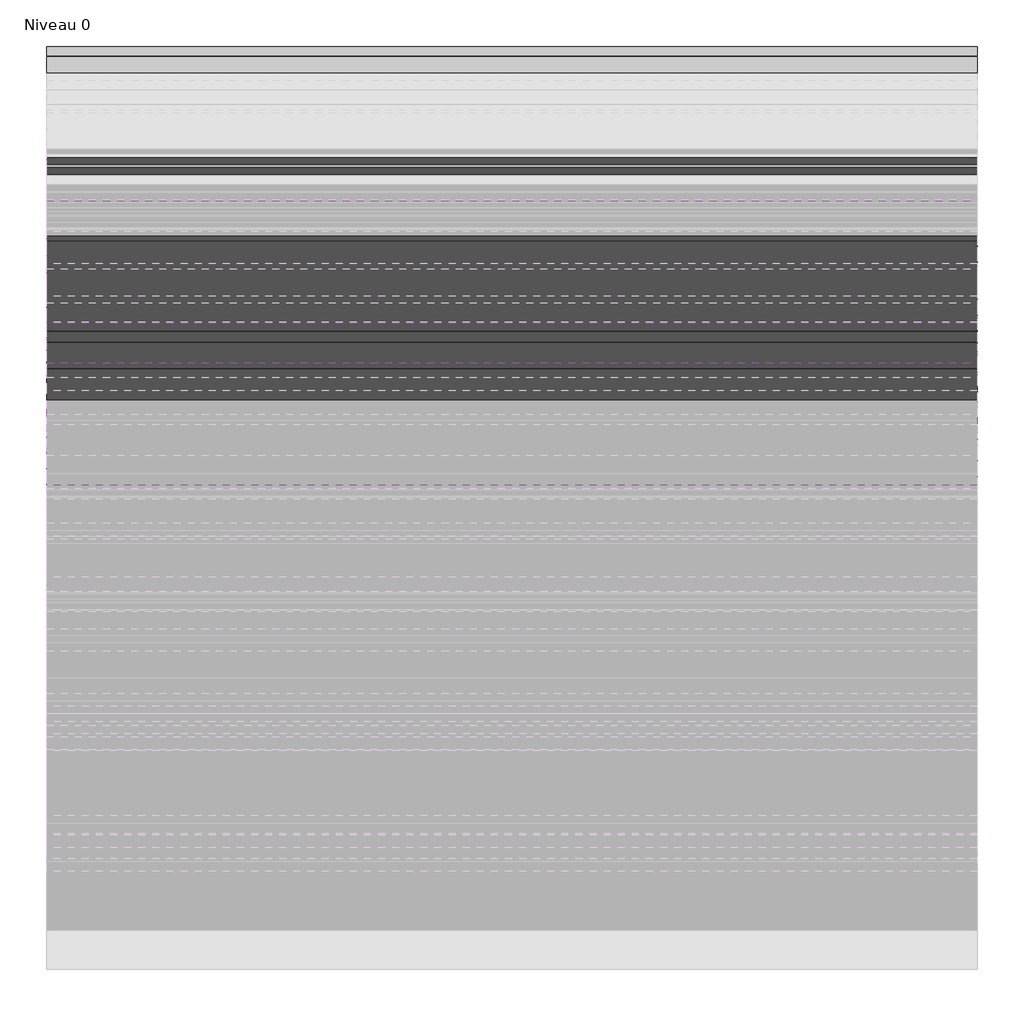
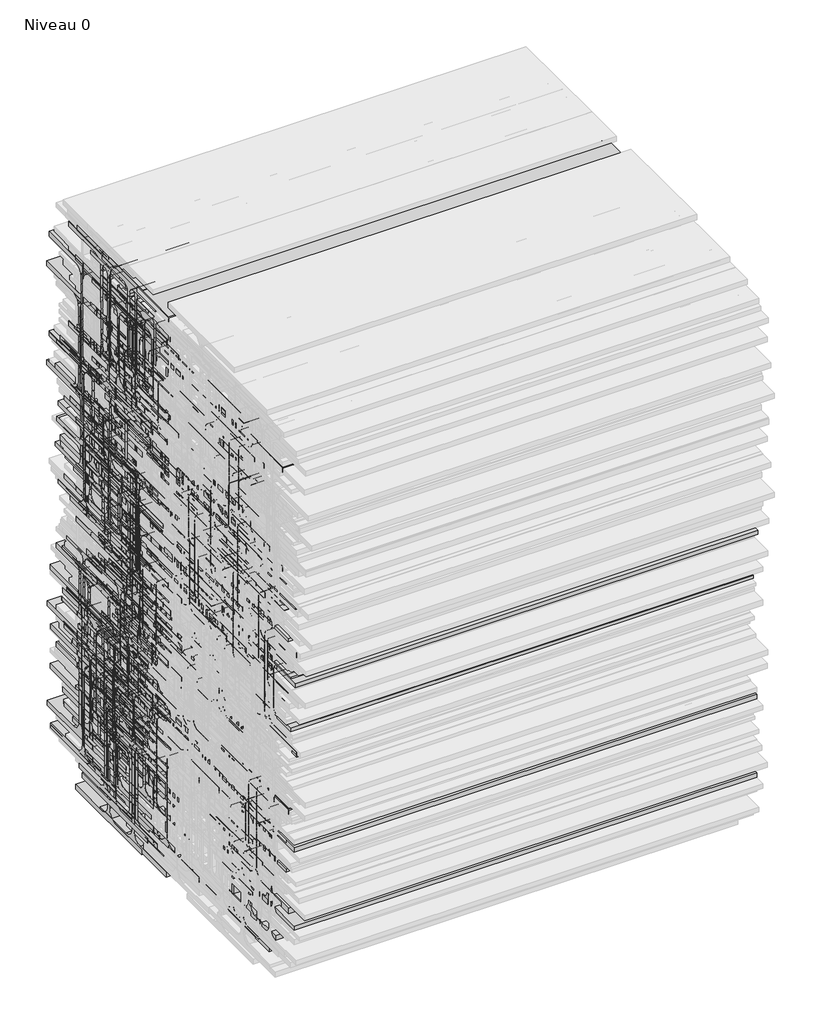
# One storey, part 10 of 26: 157 beams.
"""IFC4 building model written with IfcOpenShell, lengths in millimetres."""

from ifc_helpers import new_model, si_unit, origin, place, context, project, spatial, transform, mapped, element, save
from components import hea160_c7043086, hea240_b9c7735d, hea300_d8dc5cb0

model = new_model("IFC4")

# Units and contexts
model_context = context("Model", 3, world=origin())
ifc_project = project(units=[si_unit("LENGTHUNIT", "METRE", prefix="MILLI")], contexts=[model_context])

# Site, building, storey
site = spatial("IfcSite", under=ifc_project)
building = spatial("IfcBuilding", under=site)
storey = spatial("IfcBuildingStorey", under=building, Name="Niveau 0", Elevation=0.0)

# Beams
placement = place(None, origin())
hea160_shape = hea160_c7043086(model_context)
element("IfcBeam", 1, ObjectType="HE-A : HEA160", at=placement, inside=storey, context=model_context, shape_type="MappedRepresentation", body=[
    mapped(hea160_shape, transform((0.0, -4778.5347811, 753.5368407), x_axis=(1.0, 0.0, 0.0), y_axis=(0.0, 1.0, 0.0), z_axis=(0.0, 0.0, 1.0))),
])
element("IfcBeam", 2, ObjectType="HE-A : HEA160", at=placement, inside=storey, context=model_context, shape_type="MappedRepresentation", body=[
    mapped(hea160_shape, transform((0.0, -4770.7200841, 761.947938), x_axis=(1.0, 0.0, 0.0), y_axis=(0.0, 1.0, 0.0), z_axis=(0.0, 0.0, 1.0))),
])
element("IfcBeam", 3, ObjectType="HE-A : HEA160", at=placement, inside=storey, context=model_context, shape_type="MappedRepresentation", body=[
    mapped(hea160_shape, transform((0.0, -4721.7764122, 1326.7381024), x_axis=(1.0, 0.0, 0.0), y_axis=(0.0, 1.0, 0.0), z_axis=(0.0, 0.0, 1.0))),
])
element("IfcBeam", 4, ObjectType="HE-A : HEA160", at=placement, inside=storey, context=model_context, shape_type="MappedRepresentation", body=[
    mapped(hea160_shape, transform((0.0, -4933.9992661, 1319.469991), x_axis=(1.0, 0.0, 0.0), y_axis=(0.0, 1.0, 0.0), z_axis=(0.0, 0.0, 1.0))),
])
element("IfcBeam", 5, ObjectType="HE-A : HEA160", at=placement, inside=storey, context=model_context, shape_type="MappedRepresentation", body=[
    mapped(hea160_shape, transform((0.0, -4591.9640731, 426.3982529), x_axis=(1.0, 0.0, 0.0), y_axis=(0.0, 1.0, 0.0), z_axis=(0.0, 0.0, 1.0))),
])
element("IfcBeam", 6, ObjectType="HE-A : HEA160", at=placement, inside=storey, context=model_context, shape_type="MappedRepresentation", body=[
    mapped(hea160_shape, transform((0.0, -4723.9216603, 130.6389121), x_axis=(1.0, 0.0, 0.0), y_axis=(0.0, 1.0, 0.0), z_axis=(0.0, 0.0, 1.0))),
])
element("IfcBeam", 7, ObjectType="HE-A : HEA160", at=placement, inside=storey, context=model_context, shape_type="MappedRepresentation", body=[
    mapped(hea160_shape, transform((0.0, -4748.2187905, 191.7974685), x_axis=(1.0, 0.0, 0.0), y_axis=(0.0, 1.0, 0.0), z_axis=(0.0, 0.0, 1.0))),
])
element("IfcBeam", 8, ObjectType="HE-A : HEA160", at=placement, inside=storey, context=model_context, shape_type="MappedRepresentation", body=[
    mapped(hea160_shape, transform((0.0, -4837.6893061, 222.2120237), x_axis=(1.0, 0.0, 0.0), y_axis=(0.0, 1.0, 0.0), z_axis=(0.0, 0.0, 1.0))),
])
element("IfcBeam", 9, ObjectType="HE-A : HEA160", at=placement, inside=storey, context=model_context, shape_type="MappedRepresentation", body=[
    mapped(hea160_shape, transform((0.0, -4794.0583542, 1158.2395533), x_axis=(1.0, 0.0, 0.0), y_axis=(0.0, 1.0, 0.0), z_axis=(0.0, 0.0, 1.0))),
])
element("IfcBeam", 10, ObjectType="HE-A : HEA160", at=placement, inside=storey, context=model_context, shape_type="MappedRepresentation", body=[
    mapped(hea160_shape, transform((0.0, -4830.2657076, 1255.7530227), x_axis=(1.0, 0.0, 0.0), y_axis=(0.0, 1.0, 0.0), z_axis=(0.0, 0.0, 1.0))),
])
element("IfcBeam", 11, ObjectType="HE-A : HEA160", at=placement, inside=storey, context=model_context, shape_type="MappedRepresentation", body=[
    mapped(hea160_shape, transform((0.0, -4946.4205313, 1165.0117691), x_axis=(1.0, 0.0, 0.0), y_axis=(0.0, 1.0, 0.0), z_axis=(0.0, 0.0, 1.0))),
])
element("IfcBeam", 12, ObjectType="HE-A : HEA160", at=placement, inside=storey, context=model_context, shape_type="MappedRepresentation", body=[
    mapped(hea160_shape, transform((0.0, -4697.5749234, 316.6695528), x_axis=(1.0, 0.0, 0.0), y_axis=(0.0, 1.0, 0.0), z_axis=(0.0, 0.0, 1.0))),
])
element("IfcBeam", 13, ObjectType="HE-A : HEA160", at=placement, inside=storey, context=model_context, shape_type="MappedRepresentation", body=[
    mapped(hea160_shape, transform((0.0, -4611.0889985, 465.5241293), x_axis=(1.0, 0.0, 0.0), y_axis=(0.0, 1.0, 0.0), z_axis=(0.0, 0.0, 1.0))),
])
element("IfcBeam", 14, ObjectType="HE-A : HEA160", at=placement, inside=storey, context=model_context, shape_type="MappedRepresentation", body=[
    mapped(hea160_shape, transform((0.0, -4929.6050301, 102.2940308), x_axis=(1.0, 0.0, 0.0), y_axis=(0.0, 1.0, 0.0), z_axis=(0.0, 0.0, 1.0))),
])
element("IfcBeam", 15, ObjectType="HE-A : HEA160", at=placement, inside=storey, context=model_context, shape_type="MappedRepresentation", body=[
    mapped(hea160_shape, transform((0.0, -4829.3255231, 151.478343), x_axis=(1.0, 0.0, 0.0), y_axis=(0.0, 1.0, 0.0), z_axis=(0.0, 0.0, 1.0))),
])
element("IfcBeam", 16, ObjectType="HE-A : HEA160", at=placement, inside=storey, context=model_context, shape_type="MappedRepresentation", body=[
    mapped(hea160_shape, transform((0.0, -4863.4783496, 309.8192197), x_axis=(1.0, 0.0, 0.0), y_axis=(0.0, 1.0, 0.0), z_axis=(0.0, 0.0, 1.0))),
])
element("IfcBeam", 17, ObjectType="HE-A : HEA160", at=placement, inside=storey, context=model_context, shape_type="MappedRepresentation", body=[
    mapped(hea160_shape, transform((0.0, -4794.7251464, 241.5194994), x_axis=(1.0, 0.0, 0.0), y_axis=(0.0, 1.0, 0.0), z_axis=(0.0, 0.0, 1.0))),
])
element("IfcBeam", 18, ObjectType="HE-A : HEA160", at=placement, inside=storey, context=model_context, shape_type="MappedRepresentation", body=[
    mapped(hea160_shape, transform((0.0, -4822.5003205, 377.8836191), x_axis=(1.0, 0.0, 0.0), y_axis=(0.0, 1.0, 0.0), z_axis=(0.0, 0.0, 1.0))),
])
element("IfcBeam", 19, ObjectType="HE-A : HEA160", at=placement, inside=storey, context=model_context, shape_type="MappedRepresentation", body=[
    mapped(hea160_shape, transform((0.0, -4698.0008761, 921.9942207), x_axis=(1.0, 0.0, 0.0), y_axis=(0.0, 1.0, 0.0), z_axis=(0.0, 0.0, 1.0))),
])
element("IfcBeam", 20, ObjectType="HE-A : HEA160", at=placement, inside=storey, context=model_context, shape_type="MappedRepresentation", body=[
    mapped(hea160_shape, transform((0.0, -4862.0910189, 515.3595765), x_axis=(1.0, 0.0, 0.0), y_axis=(0.0, 1.0, 0.0), z_axis=(0.0, 0.0, 1.0))),
])
element("IfcBeam", 21, ObjectType="HE-A : HEA160", at=placement, inside=storey, context=model_context, shape_type="MappedRepresentation", body=[
    mapped(hea160_shape, transform((0.0, -4825.2040351, 432.8409018), x_axis=(1.0, 0.0, 0.0), y_axis=(0.0, 1.0, 0.0), z_axis=(0.0, 0.0, 1.0))),
])
element("IfcBeam", 22, ObjectType="HE-A : HEA160", at=placement, inside=storey, context=model_context, shape_type="MappedRepresentation", body=[
    mapped(hea160_shape, transform((0.0, -4922.7273913, 436.2856732), x_axis=(1.0, 0.0, 0.0), y_axis=(0.0, 1.0, 0.0), z_axis=(0.0, 0.0, 1.0))),
])
element("IfcBeam", 23, ObjectType="HE-A : HEA160", at=placement, inside=storey, context=model_context, shape_type="MappedRepresentation", body=[
    mapped(hea160_shape, transform((0.0, -5233.3417064, 968.8692943), x_axis=(1.0, 0.0, 0.0), y_axis=(0.0, 1.0, 0.0), z_axis=(0.0, 0.0, 1.0))),
])
element("IfcBeam", 24, ObjectType="HE-A : HEA160", at=placement, inside=storey, context=model_context, shape_type="MappedRepresentation", body=[
    mapped(hea160_shape, transform((0.0, -5239.0614208, 818.9075161), x_axis=(1.0, 0.0, 0.0), y_axis=(0.0, 1.0, 0.0), z_axis=(0.0, 0.0, 1.0))),
])
element("IfcBeam", 25, ObjectType="HE-A : HEA160", at=placement, inside=storey, context=model_context, shape_type="MappedRepresentation", body=[
    mapped(hea160_shape, transform((0.0, -5085.5464564, 932.8974492), x_axis=(1.0, 0.0, 0.0), y_axis=(0.0, 1.0, 0.0), z_axis=(0.0, 0.0, 1.0))),
])
element("IfcBeam", 26, ObjectType="HE-A : HEA160", at=placement, inside=storey, context=model_context, shape_type="MappedRepresentation", body=[
    mapped(hea160_shape, transform((0.0, -5322.4057965, 1258.843921), x_axis=(1.0, 0.0, 0.0), y_axis=(0.0, 1.0, 0.0), z_axis=(0.0, 0.0, 1.0))),
])
element("IfcBeam", 27, ObjectType="HE-A : HEA160", at=placement, inside=storey, context=model_context, shape_type="MappedRepresentation", body=[
    mapped(hea160_shape, transform((0.0, -5285.9702328, 1114.5118663), x_axis=(1.0, 0.0, 0.0), y_axis=(0.0, 1.0, 0.0), z_axis=(0.0, 0.0, 1.0))),
])
element("IfcBeam", 28, ObjectType="HE-A : HEA160", at=placement, inside=storey, context=model_context, shape_type="MappedRepresentation", body=[
    mapped(hea160_shape, transform((0.0, -5368.3609668, 1132.4464959), x_axis=(1.0, 0.0, 0.0), y_axis=(0.0, 1.0, 0.0), z_axis=(0.0, 0.0, 1.0))),
])
element("IfcBeam", 29, ObjectType="HE-A : HEA160", at=placement, inside=storey, context=model_context, shape_type="MappedRepresentation", body=[
    mapped(hea160_shape, transform((0.0, -5268.3119294, 1076.7474557), x_axis=(1.0, 0.0, 0.0), y_axis=(0.0, 1.0, 0.0), z_axis=(0.0, 0.0, 1.0))),
])
element("IfcBeam", 30, ObjectType="HE-A : HEA160", at=placement, inside=storey, context=model_context, shape_type="MappedRepresentation", body=[
    mapped(hea160_shape, transform((0.0, -5460.8276247, 791.746766), x_axis=(1.0, 0.0, 0.0), y_axis=(0.0, 1.0, 0.0), z_axis=(0.0, 0.0, 1.0))),
])
element("IfcBeam", 31, ObjectType="HE-A : HEA160", at=placement, inside=storey, context=model_context, shape_type="MappedRepresentation", body=[
    mapped(hea160_shape, transform((0.0, -5446.1566288, 752.7610094), x_axis=(1.0, 0.0, 0.0), y_axis=(0.0, 1.0, 0.0), z_axis=(0.0, 0.0, 1.0))),
])
element("IfcBeam", 32, ObjectType="HE-A : HEA160", at=placement, inside=storey, context=model_context, shape_type="MappedRepresentation", body=[
    mapped(hea160_shape, transform((0.0, -5473.2307553, 692.0021269), x_axis=(1.0, 0.0, 0.0), y_axis=(0.0, 1.0, 0.0), z_axis=(0.0, 0.0, 1.0))),
])
element("IfcBeam", 33, ObjectType="HE-A : HEA160", at=placement, inside=storey, context=model_context, shape_type="MappedRepresentation", body=[
    mapped(hea160_shape, transform((0.0, -5452.4885677, 655.4841327), x_axis=(1.0, 0.0, 0.0), y_axis=(0.0, 1.0, 0.0), z_axis=(0.0, 0.0, 1.0))),
])
element("IfcBeam", 34, ObjectType="HE-A : HEA160", at=placement, inside=storey, context=model_context, shape_type="MappedRepresentation", body=[
    mapped(hea160_shape, transform((0.0, -5249.4466951, 862.5989462), x_axis=(1.0, 0.0, 0.0), y_axis=(0.0, 1.0, 0.0), z_axis=(0.0, 0.0, 1.0))),
])
element("IfcBeam", 35, ObjectType="HE-A : HEA160", at=placement, inside=storey, context=model_context, shape_type="MappedRepresentation", body=[
    mapped(hea160_shape, transform((0.0, -5276.7669789, 186.3863521), x_axis=(1.0, 0.0, 0.0), y_axis=(0.0, 1.0, 0.0), z_axis=(0.0, 0.0, 1.0))),
])
element("IfcBeam", 36, ObjectType="HE-A : HEA160", at=placement, inside=storey, context=model_context, shape_type="MappedRepresentation", body=[
    mapped(hea160_shape, transform((0.0, -5300.7596282, 131.7590212), x_axis=(1.0, 0.0, 0.0), y_axis=(0.0, 1.0, 0.0), z_axis=(0.0, 0.0, 1.0))),
])
element("IfcBeam", 37, ObjectType="HE-A : HEA160", at=placement, inside=storey, context=model_context, shape_type="MappedRepresentation", body=[
    mapped(hea160_shape, transform((0.0, -5451.8261378, 286.363991), x_axis=(1.0, 0.0, 0.0), y_axis=(0.0, 1.0, 0.0), z_axis=(0.0, 0.0, 1.0))),
])
element("IfcBeam", 38, ObjectType="HE-A : HEA160", at=placement, inside=storey, context=model_context, shape_type="MappedRepresentation", body=[
    mapped(hea160_shape, transform((0.0, -5345.9921343, 242.9086929), x_axis=(1.0, 0.0, 0.0), y_axis=(0.0, 1.0, 0.0), z_axis=(0.0, 0.0, 1.0))),
])
element("IfcBeam", 39, ObjectType="HE-A : HEA160", at=placement, inside=storey, context=model_context, shape_type="MappedRepresentation", body=[
    mapped(hea160_shape, transform((0.0, -5387.2643657, 199.9093189), x_axis=(1.0, 0.0, 0.0), y_axis=(0.0, 1.0, 0.0), z_axis=(0.0, 0.0, 1.0))),
])
element("IfcBeam", 40, ObjectType="HE-A : HEA160", at=placement, inside=storey, context=model_context, shape_type="MappedRepresentation", body=[
    mapped(hea160_shape, transform((0.0, -5196.3596946, 671.4506748), x_axis=(1.0, 0.0, 0.0), y_axis=(0.0, 1.0, 0.0), z_axis=(0.0, 0.0, 1.0))),
])
element("IfcBeam", 41, ObjectType="HE-A : HEA160", at=placement, inside=storey, context=model_context, shape_type="MappedRepresentation", body=[
    mapped(hea160_shape, transform((0.0, -5316.50127, 859.965804), x_axis=(1.0, 0.0, 0.0), y_axis=(0.0, 1.0, 0.0), z_axis=(0.0, 0.0, 1.0))),
])
element("IfcBeam", 42, ObjectType="HE-A : HEA160", at=placement, inside=storey, context=model_context, shape_type="MappedRepresentation", body=[
    mapped(hea160_shape, transform((0.0, -5129.3441451, 787.3981814), x_axis=(1.0, 0.0, 0.0), y_axis=(0.0, 1.0, 0.0), z_axis=(0.0, 0.0, 1.0))),
])
hea240_shape = hea240_b9c7735d(model_context)
element("IfcBeam", 43, ObjectType="HE-A : HEA240", at=placement, inside=storey, context=model_context, shape_type="MappedRepresentation", body=[
    mapped(hea240_shape, transform((0.0, -4852.4933722, 726.5234958), x_axis=(1.0, 0.0, 0.0), y_axis=(0.0, 1.0, 0.0), z_axis=(0.0, 0.0, 1.0))),
])
element("IfcBeam", 44, ObjectType="HE-A : HEA240", at=placement, inside=storey, context=model_context, shape_type="MappedRepresentation", body=[
    mapped(hea240_shape, transform((0.0, -4708.3766493, 45.8240225), x_axis=(1.0, 0.0, 0.0), y_axis=(0.0, 1.0, 0.0), z_axis=(0.0, 0.0, 1.0))),
])
element("IfcBeam", 45, ObjectType="HE-A : HEA240", at=placement, inside=storey, context=model_context, shape_type="MappedRepresentation", body=[
    mapped(hea240_shape, transform((0.0, -4814.5966031, 1306.5928297), x_axis=(1.0, 0.0, 0.0), y_axis=(0.0, 1.0, 0.0), z_axis=(0.0, 0.0, 1.0))),
])
element("IfcBeam", 46, ObjectType="HE-A : HEA240", at=placement, inside=storey, context=model_context, shape_type="MappedRepresentation", body=[
    mapped(hea240_shape, transform((0.0, -4923.5013824, 1239.6321816), x_axis=(1.0, 0.0, 0.0), y_axis=(0.0, 1.0, 0.0), z_axis=(0.0, 0.0, 1.0))),
])
element("IfcBeam", 47, ObjectType="HE-A : HEA240", at=placement, inside=storey, context=model_context, shape_type="MappedRepresentation", body=[
    mapped(hea240_shape, transform((0.0, -4884.4734375, 1265.7349682), x_axis=(1.0, 0.0, 0.0), y_axis=(0.0, 1.0, 0.0), z_axis=(0.0, 0.0, 1.0))),
])
element("IfcBeam", 48, ObjectType="HE-A : HEA240", at=placement, inside=storey, context=model_context, shape_type="MappedRepresentation", body=[
    mapped(hea240_shape, transform((0.0, -4639.7834861, 175.3398139), x_axis=(1.0, 0.0, 0.0), y_axis=(0.0, 1.0, 0.0), z_axis=(0.0, 0.0, 1.0))),
])
element("IfcBeam", 49, ObjectType="HE-A : HEA240", at=placement, inside=storey, context=model_context, shape_type="MappedRepresentation", body=[
    mapped(hea240_shape, transform((0.0, -4680.1442098, 158.3789689), x_axis=(1.0, 0.0, 0.0), y_axis=(0.0, 1.0, 0.0), z_axis=(0.0, 0.0, 1.0))),
])
element("IfcBeam", 50, ObjectType="HE-A : HEA240", at=placement, inside=storey, context=model_context, shape_type="MappedRepresentation", body=[
    mapped(hea240_shape, transform((0.0, -4705.3147058, 213.9597063), x_axis=(1.0, 0.0, 0.0), y_axis=(0.0, 1.0, 0.0), z_axis=(0.0, 0.0, 1.0))),
])
element("IfcBeam", 51, ObjectType="HE-A : HEA240", at=placement, inside=storey, context=model_context, shape_type="MappedRepresentation", body=[
    mapped(hea240_shape, transform((0.0, -4613.0802651, 779.0951934), x_axis=(1.0, 0.0, 0.0), y_axis=(0.0, 1.0, 0.0), z_axis=(0.0, 0.0, 1.0))),
])
element("IfcBeam", 52, ObjectType="HE-A : HEA240", at=placement, inside=storey, context=model_context, shape_type="MappedRepresentation", body=[
    mapped(hea240_shape, transform((0.0, -4606.2545742, 949.1989084), x_axis=(1.0, 0.0, 0.0), y_axis=(0.0, 1.0, 0.0), z_axis=(0.0, 0.0, 1.0))),
])
element("IfcBeam", 53, ObjectType="HE-A : HEA240", at=placement, inside=storey, context=model_context, shape_type="MappedRepresentation", body=[
    mapped(hea240_shape, transform((0.0, -4598.3205899, 874.7229275), x_axis=(1.0, 0.0, 0.0), y_axis=(0.0, 1.0, 0.0), z_axis=(0.0, 0.0, 1.0))),
])
element("IfcBeam", 54, ObjectType="HE-A : HEA240", at=placement, inside=storey, context=model_context, shape_type="MappedRepresentation", body=[
    mapped(hea240_shape, transform((0.0, -4768.3496032, 1215.7748631), x_axis=(1.0, 0.0, 0.0), y_axis=(0.0, 1.0, 0.0), z_axis=(0.0, 0.0, 1.0))),
])
element("IfcBeam", 55, ObjectType="HE-A : HEA240", at=placement, inside=storey, context=model_context, shape_type="MappedRepresentation", body=[
    mapped(hea240_shape, transform((0.0, -4731.002347, 966.1723528), x_axis=(1.0, 0.0, 0.0), y_axis=(0.0, 1.0, 0.0), z_axis=(0.0, 0.0, 1.0))),
])
element("IfcBeam", 56, ObjectType="HE-A : HEA240", at=placement, inside=storey, context=model_context, shape_type="MappedRepresentation", body=[
    mapped(hea240_shape, transform((0.0, -4802.9247559, 957.8835326), x_axis=(1.0, 0.0, 0.0), y_axis=(0.0, 1.0, 0.0), z_axis=(0.0, 0.0, 1.0))),
])
element("IfcBeam", 57, ObjectType="HE-A : HEA240", at=placement, inside=storey, context=model_context, shape_type="MappedRepresentation", body=[
    mapped(hea240_shape, transform((0.0, -4894.7305444, 1112.7164827), x_axis=(1.0, 0.0, 0.0), y_axis=(0.0, 1.0, 0.0), z_axis=(0.0, 0.0, 1.0))),
])
element("IfcBeam", 58, ObjectType="HE-A : HEA240", at=placement, inside=storey, context=model_context, shape_type="MappedRepresentation", body=[
    mapped(hea240_shape, transform((0.0, -4988.183062, 1232.9818225), x_axis=(1.0, 0.0, 0.0), y_axis=(0.0, 1.0, 0.0), z_axis=(0.0, 0.0, 1.0))),
])
element("IfcBeam", 59, ObjectType="HE-A : HEA240", at=placement, inside=storey, context=model_context, shape_type="MappedRepresentation", body=[
    mapped(hea240_shape, transform((0.0, -4724.1698263, 395.5813398), x_axis=(1.0, 0.0, 0.0), y_axis=(0.0, 1.0, 0.0), z_axis=(0.0, 0.0, 1.0))),
])
element("IfcBeam", 60, ObjectType="HE-A : HEA240", at=placement, inside=storey, context=model_context, shape_type="MappedRepresentation", body=[
    mapped(hea240_shape, transform((0.0, -4850.7048494, 37.3619877), x_axis=(1.0, 0.0, 0.0), y_axis=(0.0, 1.0, 0.0), z_axis=(0.0, 0.0, 1.0))),
])
element("IfcBeam", 61, ObjectType="HE-A : HEA240", at=placement, inside=storey, context=model_context, shape_type="MappedRepresentation", body=[
    mapped(hea240_shape, transform((0.0, -4885.3114556, 146.4283724), x_axis=(1.0, 0.0, 0.0), y_axis=(0.0, 1.0, 0.0), z_axis=(0.0, 0.0, 1.0))),
])
element("IfcBeam", 62, ObjectType="HE-A : HEA240", at=placement, inside=storey, context=model_context, shape_type="MappedRepresentation", body=[
    mapped(hea240_shape, transform((0.0, -4903.84538, 193.2879736), x_axis=(1.0, 0.0, 0.0), y_axis=(0.0, 1.0, 0.0), z_axis=(0.0, 0.0, 1.0))),
])
element("IfcBeam", 63, ObjectType="HE-A : HEA240", at=placement, inside=storey, context=model_context, shape_type="MappedRepresentation", body=[
    mapped(hea240_shape, transform((0.0, -4940.2337116, 224.0643167), x_axis=(1.0, 0.0, 0.0), y_axis=(0.0, 1.0, 0.0), z_axis=(0.0, 0.0, 1.0))),
])
element("IfcBeam", 64, ObjectType="HE-A : HEA240", at=placement, inside=storey, context=model_context, shape_type="MappedRepresentation", body=[
    mapped(hea240_shape, transform((0.0, -4811.9455252, 315.1875134), x_axis=(1.0, 0.0, 0.0), y_axis=(0.0, 1.0, 0.0), z_axis=(0.0, 0.0, 1.0))),
])
element("IfcBeam", 65, ObjectType="HE-A : HEA240", at=placement, inside=storey, context=model_context, shape_type="MappedRepresentation", body=[
    mapped(hea240_shape, transform((0.0, -4749.3684238, 302.0269557), x_axis=(1.0, 0.0, 0.0), y_axis=(0.0, 1.0, 0.0), z_axis=(0.0, 0.0, 1.0))),
])
element("IfcBeam", 66, ObjectType="HE-A : HEA240", at=placement, inside=storey, context=model_context, shape_type="MappedRepresentation", body=[
    mapped(hea240_shape, transform((0.0, -4639.4671453, 809.5987305), x_axis=(1.0, 0.0, 0.0), y_axis=(0.0, 1.0, 0.0), z_axis=(0.0, 0.0, 1.0))),
])
element("IfcBeam", 67, ObjectType="HE-A : HEA240", at=placement, inside=storey, context=model_context, shape_type="MappedRepresentation", body=[
    mapped(hea240_shape, transform((0.0, -4644.0445131, 869.646238), x_axis=(1.0, 0.0, 0.0), y_axis=(0.0, 1.0, 0.0), z_axis=(0.0, 0.0, 1.0))),
])
element("IfcBeam", 68, ObjectType="HE-A : HEA240", at=placement, inside=storey, context=model_context, shape_type="MappedRepresentation", body=[
    mapped(hea240_shape, transform((0.0, -4684.7764872, 859.0464198), x_axis=(1.0, 0.0, 0.0), y_axis=(0.0, 1.0, 0.0), z_axis=(0.0, 0.0, 1.0))),
])
element("IfcBeam", 69, ObjectType="HE-A : HEA240", at=placement, inside=storey, context=model_context, shape_type="MappedRepresentation", body=[
    mapped(hea240_shape, transform((0.0, -4937.1780206, 569.8845216), x_axis=(1.0, 0.0, 0.0), y_axis=(0.0, 1.0, 0.0), z_axis=(0.0, 0.0, 1.0))),
])
element("IfcBeam", 70, ObjectType="HE-A : HEA240", at=placement, inside=storey, context=model_context, shape_type="MappedRepresentation", body=[
    mapped(hea240_shape, transform((0.0, -4796.7125843, 468.0420428), x_axis=(1.0, 0.0, 0.0), y_axis=(0.0, 1.0, 0.0), z_axis=(0.0, 0.0, 1.0))),
])
element("IfcBeam", 71, ObjectType="HE-A : HEA240", at=placement, inside=storey, context=model_context, shape_type="MappedRepresentation", body=[
    mapped(hea240_shape, transform((0.0, -4875.6482103, 576.802121), x_axis=(1.0, 0.0, 0.0), y_axis=(0.0, 1.0, 0.0), z_axis=(0.0, 0.0, 1.0))),
])
element("IfcBeam", 72, ObjectType="HE-A : HEA240", at=placement, inside=storey, context=model_context, shape_type="MappedRepresentation", body=[
    mapped(hea240_shape, transform((0.0, -4833.0756715, 621.6467534), x_axis=(1.0, 0.0, 0.0), y_axis=(0.0, 1.0, 0.0), z_axis=(0.0, 0.0, 1.0))),
])
element("IfcBeam", 73, ObjectType="HE-A : HEA240", at=placement, inside=storey, context=model_context, shape_type="MappedRepresentation", body=[
    mapped(hea240_shape, transform((0.0, -5161.0212033, 1143.2057597), x_axis=(1.0, 0.0, 0.0), y_axis=(0.0, 1.0, 0.0), z_axis=(0.0, 0.0, 1.0))),
])
element("IfcBeam", 74, ObjectType="HE-A : HEA240", at=placement, inside=storey, context=model_context, shape_type="MappedRepresentation", body=[
    mapped(hea240_shape, transform((0.0, -5201.9345799, 1079.0315905), x_axis=(1.0, 0.0, 0.0), y_axis=(0.0, 1.0, 0.0), z_axis=(0.0, 0.0, 1.0))),
])
element("IfcBeam", 75, ObjectType="HE-A : HEA240", at=placement, inside=storey, context=model_context, shape_type="MappedRepresentation", body=[
    mapped(hea240_shape, transform((0.0, -5338.8504804, 809.912001), x_axis=(1.0, 0.0, 0.0), y_axis=(0.0, 1.0, 0.0), z_axis=(0.0, 0.0, 1.0))),
])
element("IfcBeam", 76, ObjectType="HE-A : HEA240", at=placement, inside=storey, context=model_context, shape_type="MappedRepresentation", body=[
    mapped(hea240_shape, transform((0.0, -5033.5207107, 914.3687071), x_axis=(1.0, 0.0, 0.0), y_axis=(0.0, 1.0, 0.0), z_axis=(0.0, 0.0, 1.0))),
])
element("IfcBeam", 77, ObjectType="HE-A : HEA240", at=placement, inside=storey, context=model_context, shape_type="MappedRepresentation", body=[
    mapped(hea240_shape, transform((0.0, -5097.6723465, 883.1644068), x_axis=(1.0, 0.0, 0.0), y_axis=(0.0, 1.0, 0.0), z_axis=(0.0, 0.0, 1.0))),
])
element("IfcBeam", 78, ObjectType="HE-A : HEA240", at=placement, inside=storey, context=model_context, shape_type="MappedRepresentation", body=[
    mapped(hea240_shape, transform((0.0, -5089.2452961, 779.7691271), x_axis=(1.0, 0.0, 0.0), y_axis=(0.0, 1.0, 0.0), z_axis=(0.0, 0.0, 1.0))),
])
element("IfcBeam", 79, ObjectType="HE-A : HEA240", at=placement, inside=storey, context=model_context, shape_type="MappedRepresentation", body=[
    mapped(hea240_shape, transform((0.0, -5269.4673608, 1164.5556111), x_axis=(1.0, 0.0, 0.0), y_axis=(0.0, 1.0, 0.0), z_axis=(0.0, 0.0, 1.0))),
])
element("IfcBeam", 80, ObjectType="HE-A : HEA240", at=placement, inside=storey, context=model_context, shape_type="MappedRepresentation", body=[
    mapped(hea240_shape, transform((0.0, -5313.0762566, 1173.7027114), x_axis=(1.0, 0.0, 0.0), y_axis=(0.0, 1.0, 0.0), z_axis=(0.0, 0.0, 1.0))),
])
element("IfcBeam", 81, ObjectType="HE-A : HEA240", at=placement, inside=storey, context=model_context, shape_type="MappedRepresentation", body=[
    mapped(hea240_shape, transform((0.0, -5343.5528976, 1105.6471539), x_axis=(1.0, 0.0, 0.0), y_axis=(0.0, 1.0, 0.0), z_axis=(0.0, 0.0, 1.0))),
])
element("IfcBeam", 82, ObjectType="HE-A : HEA240", at=placement, inside=storey, context=model_context, shape_type="MappedRepresentation", body=[
    mapped(hea240_shape, transform((0.0, -5337.3957611, 1018.1259317), x_axis=(1.0, 0.0, 0.0), y_axis=(0.0, 1.0, 0.0), z_axis=(0.0, 0.0, 1.0))),
])
element("IfcBeam", 83, ObjectType="HE-A : HEA240", at=placement, inside=storey, context=model_context, shape_type="MappedRepresentation", body=[
    mapped(hea240_shape, transform((0.0, -5313.7460978, 1079.2978657), x_axis=(1.0, 0.0, 0.0), y_axis=(0.0, 1.0, 0.0), z_axis=(0.0, 0.0, 1.0))),
])
element("IfcBeam", 84, ObjectType="HE-A : HEA240", at=placement, inside=storey, context=model_context, shape_type="MappedRepresentation", body=[
    mapped(hea240_shape, transform((0.0, -5287.5582543, 1012.7716645), x_axis=(1.0, 0.0, 0.0), y_axis=(0.0, 1.0, 0.0), z_axis=(0.0, 0.0, 1.0))),
])
element("IfcBeam", 85, ObjectType="HE-A : HEA240", at=placement, inside=storey, context=model_context, shape_type="MappedRepresentation", body=[
    mapped(hea240_shape, transform((0.0, -5453.2351946, 865.0636289), x_axis=(1.0, 0.0, 0.0), y_axis=(0.0, 1.0, 0.0), z_axis=(0.0, 0.0, 1.0))),
])
element("IfcBeam", 86, ObjectType="HE-A : HEA240", at=placement, inside=storey, context=model_context, shape_type="MappedRepresentation", body=[
    mapped(hea240_shape, transform((0.0, -5412.0558261, 904.6723382), x_axis=(1.0, 0.0, 0.0), y_axis=(0.0, 1.0, 0.0), z_axis=(0.0, 0.0, 1.0))),
])
element("IfcBeam", 87, ObjectType="HE-A : HEA240", at=placement, inside=storey, context=model_context, shape_type="MappedRepresentation", body=[
    mapped(hea240_shape, transform((0.0, -5403.9152076, 821.3448805), x_axis=(1.0, 0.0, 0.0), y_axis=(0.0, 1.0, 0.0), z_axis=(0.0, 0.0, 1.0))),
])
element("IfcBeam", 88, ObjectType="HE-A : HEA240", at=placement, inside=storey, context=model_context, shape_type="MappedRepresentation", body=[
    mapped(hea240_shape, transform((0.0, -5176.6982358, 901.7871), x_axis=(1.0, 0.0, 0.0), y_axis=(0.0, 1.0, 0.0), z_axis=(0.0, 0.0, 1.0))),
])
element("IfcBeam", 89, ObjectType="HE-A : HEA240", at=placement, inside=storey, context=model_context, shape_type="MappedRepresentation", body=[
    mapped(hea240_shape, transform((0.0, -5364.8100738, 109.1609595), x_axis=(1.0, 0.0, 0.0), y_axis=(0.0, 1.0, 0.0), z_axis=(0.0, 0.0, 1.0))),
])
element("IfcBeam", 90, ObjectType="HE-A : HEA240", at=placement, inside=storey, context=model_context, shape_type="MappedRepresentation", body=[
    mapped(hea240_shape, transform((0.0, -5328.5312501, 187.7277545), x_axis=(1.0, 0.0, 0.0), y_axis=(0.0, 1.0, 0.0), z_axis=(0.0, 0.0, 1.0))),
])
element("IfcBeam", 91, ObjectType="HE-A : HEA240", at=placement, inside=storey, context=model_context, shape_type="MappedRepresentation", body=[
    mapped(hea240_shape, transform((0.0, -5449.4102663, 187.528083), x_axis=(1.0, 0.0, 0.0), y_axis=(0.0, 1.0, 0.0), z_axis=(0.0, 0.0, 1.0))),
])
element("IfcBeam", 92, ObjectType="HE-A : HEA240", at=placement, inside=storey, context=model_context, shape_type="MappedRepresentation", body=[
    mapped(hea240_shape, transform((0.0, -5358.9237236, 272.9735851), x_axis=(1.0, 0.0, 0.0), y_axis=(0.0, 1.0, 0.0), z_axis=(0.0, 0.0, 1.0))),
])
element("IfcBeam", 93, ObjectType="HE-A : HEA240", at=placement, inside=storey, context=model_context, shape_type="MappedRepresentation", body=[
    mapped(hea240_shape, transform((0.0, -5334.373604, 58.9122614), x_axis=(1.0, 0.0, 0.0), y_axis=(0.0, 1.0, 0.0), z_axis=(0.0, 0.0, 1.0))),
])
element("IfcBeam", 94, ObjectType="HE-A : HEA240", at=placement, inside=storey, context=model_context, shape_type="MappedRepresentation", body=[
    mapped(hea240_shape, transform((0.0, -5288.5679696, 59.8033497), x_axis=(1.0, 0.0, 0.0), y_axis=(0.0, 1.0, 0.0), z_axis=(0.0, 0.0, 1.0))),
])
element("IfcBeam", 95, ObjectType="HE-A : HEA240", at=placement, inside=storey, context=model_context, shape_type="MappedRepresentation", body=[
    mapped(hea240_shape, transform((0.0, -5123.3185276, 411.4562111), x_axis=(1.0, 0.0, 0.0), y_axis=(0.0, 1.0, 0.0), z_axis=(0.0, 0.0, 1.0))),
])
element("IfcBeam", 96, ObjectType="HE-A : HEA240", at=placement, inside=storey, context=model_context, shape_type="MappedRepresentation", body=[
    mapped(hea240_shape, transform((0.0, -5106.6267239, 466.1752344), x_axis=(1.0, 0.0, 0.0), y_axis=(0.0, 1.0, 0.0), z_axis=(0.0, 0.0, 1.0))),
])
element("IfcBeam", 97, ObjectType="HE-A : HEA240", at=placement, inside=storey, context=model_context, shape_type="MappedRepresentation", body=[
    mapped(hea240_shape, transform((0.0, -5058.5834164, 452.0395486), x_axis=(1.0, 0.0, 0.0), y_axis=(0.0, 1.0, 0.0), z_axis=(0.0, 0.0, 1.0))),
])
element("IfcBeam", 98, ObjectType="HE-A : HEA240", at=placement, inside=storey, context=model_context, shape_type="MappedRepresentation", body=[
    mapped(hea240_shape, transform((0.0, -5214.5692574, 585.1460033), x_axis=(1.0, 0.0, 0.0), y_axis=(0.0, 1.0, 0.0), z_axis=(0.0, 0.0, 1.0))),
])
element("IfcBeam", 99, ObjectType="HE-A : HEA240", at=placement, inside=storey, context=model_context, shape_type="MappedRepresentation", body=[
    mapped(hea240_shape, transform((0.0, -5248.672356, 580.1420383), x_axis=(1.0, 0.0, 0.0), y_axis=(0.0, 1.0, 0.0), z_axis=(0.0, 0.0, 1.0))),
])
element("IfcBeam", 100, ObjectType="HE-A : HEA240", at=placement, inside=storey, context=model_context, shape_type="MappedRepresentation", body=[
    mapped(hea240_shape, transform((0.0, -5358.2304246, 847.4387223), x_axis=(1.0, 0.0, 0.0), y_axis=(0.0, 1.0, 0.0), z_axis=(0.0, 0.0, 1.0))),
])
element("IfcBeam", 101, ObjectType="HE-A : HEA240", at=placement, inside=storey, context=model_context, shape_type="MappedRepresentation", body=[
    mapped(hea240_shape, transform((0.0, -5360.1147092, 932.0191347), x_axis=(1.0, 0.0, 0.0), y_axis=(0.0, 1.0, 0.0), z_axis=(0.0, 0.0, 1.0))),
])
element("IfcBeam", 102, ObjectType="HE-A : HEA240", at=placement, inside=storey, context=model_context, shape_type="MappedRepresentation", body=[
    mapped(hea240_shape, transform((0.0, -5145.6148233, 837.9030805), x_axis=(1.0, 0.0, 0.0), y_axis=(0.0, 1.0, 0.0), z_axis=(0.0, 0.0, 1.0))),
])
hea300_shape = hea300_d8dc5cb0(model_context)
element("IfcBeam", 103, ObjectType="HE-A : HEA300", at=placement, inside=storey, context=model_context, shape_type="MappedRepresentation", body=[
    mapped(hea300_shape, transform((0.0, -4724.9658651, 753.720477), x_axis=(1.0, 0.0, 0.0), y_axis=(0.0, 1.0, 0.0), z_axis=(0.0, 0.0, 1.0))),
])
element("IfcBeam", 104, ObjectType="HE-A : HEA300", at=placement, inside=storey, context=model_context, shape_type="MappedRepresentation", body=[
    mapped(hea300_shape, transform((0.0, -4856.9147993, 752.8118666), x_axis=(1.0, 0.0, 0.0), y_axis=(0.0, 1.0, 0.0), z_axis=(0.0, 0.0, 1.0))),
])
element("IfcBeam", 105, ObjectType="HE-A : HEA300", at=placement, inside=storey, context=model_context, shape_type="MappedRepresentation", body=[
    mapped(hea300_shape, transform((0.0, -4859.9638184, 693.7365299), x_axis=(1.0, 0.0, 0.0), y_axis=(0.0, 1.0, 0.0), z_axis=(0.0, 0.0, 1.0))),
])
element("IfcBeam", 106, ObjectType="HE-A : HEA300", at=placement, inside=storey, context=model_context, shape_type="MappedRepresentation", body=[
    mapped(hea300_shape, transform((0.0, -4828.4403779, 772.7329679), x_axis=(1.0, 0.0, 0.0), y_axis=(0.0, 1.0, 0.0), z_axis=(0.0, 0.0, 1.0))),
])
element("IfcBeam", 107, ObjectType="HE-A : HEA300", at=placement, inside=storey, context=model_context, shape_type="MappedRepresentation", body=[
    mapped(hea300_shape, transform((0.0, -4838.9873102, 705.7487294), x_axis=(1.0, 0.0, 0.0), y_axis=(0.0, 1.0, 0.0), z_axis=(0.0, 0.0, 1.0))),
])
element("IfcBeam", 108, ObjectType="HE-A : HEA300", at=placement, inside=storey, context=model_context, shape_type="MappedRepresentation", body=[
    mapped(hea300_shape, transform((0.0, -4607.9558602, 107.2024852), x_axis=(1.0, 0.0, 0.0), y_axis=(0.0, 1.0, 0.0), z_axis=(0.0, 0.0, 1.0))),
])
element("IfcBeam", 109, ObjectType="HE-A : HEA300", at=placement, inside=storey, context=model_context, shape_type="MappedRepresentation", body=[
    mapped(hea300_shape, transform((0.0, -4847.4848436, 1288.9061551), x_axis=(1.0, 0.0, 0.0), y_axis=(0.0, 1.0, 0.0), z_axis=(0.0, 0.0, 1.0))),
])
element("IfcBeam", 110, ObjectType="HE-A : HEA300", at=placement, inside=storey, context=model_context, shape_type="MappedRepresentation", body=[
    mapped(hea300_shape, transform((0.0, -4592.7203011, 161.6039826), x_axis=(1.0, 0.0, 0.0), y_axis=(0.0, 1.0, 0.0), z_axis=(0.0, 0.0, 1.0))),
])
element("IfcBeam", 111, ObjectType="HE-A : HEA300", at=placement, inside=storey, context=model_context, shape_type="MappedRepresentation", body=[
    mapped(hea300_shape, transform((0.0, -4607.1995686, 272.2844141), x_axis=(1.0, 0.0, 0.0), y_axis=(0.0, 1.0, 0.0), z_axis=(0.0, 0.0, 1.0))),
])
element("IfcBeam", 112, ObjectType="HE-A : HEA300", at=placement, inside=storey, context=model_context, shape_type="MappedRepresentation", body=[
    mapped(hea300_shape, transform((0.0, -4751.6111909, 55.1460789), x_axis=(1.0, 0.0, 0.0), y_axis=(0.0, 1.0, 0.0), z_axis=(0.0, 0.0, 1.0))),
])
element("IfcBeam", 113, ObjectType="HE-A : HEA300", at=placement, inside=storey, context=model_context, shape_type="MappedRepresentation", body=[
    mapped(hea300_shape, transform((0.0, -4722.6193758, 6.0901999), x_axis=(1.0, 0.0, 0.0), y_axis=(0.0, 1.0, 0.0), z_axis=(0.0, 0.0, 1.0))),
])
element("IfcBeam", 114, ObjectType="HE-A : HEA300", at=placement, inside=storey, context=model_context, shape_type="MappedRepresentation", body=[
    mapped(hea300_shape, transform((0.0, -4835.2659561, 11.4885857), x_axis=(1.0, 0.0, 0.0), y_axis=(0.0, 1.0, 0.0), z_axis=(0.0, 0.0, 1.0))),
])
element("IfcBeam", 115, ObjectType="HE-A : HEA300", at=placement, inside=storey, context=model_context, shape_type="MappedRepresentation", body=[
    mapped(hea300_shape, transform((0.0, -4662.3841289, 241.0536543), x_axis=(1.0, 0.0, 0.0), y_axis=(0.0, 1.0, 0.0), z_axis=(0.0, 0.0, 1.0))),
])
element("IfcBeam", 116, ObjectType="HE-A : HEA300", at=placement, inside=storey, context=model_context, shape_type="MappedRepresentation", body=[
    mapped(hea300_shape, transform((0.0, -4728.5275819, 1289.8427969), x_axis=(1.0, 0.0, 0.0), y_axis=(0.0, 1.0, 0.0), z_axis=(0.0, 0.0, 1.0))),
])
element("IfcBeam", 117, ObjectType="HE-A : HEA300", at=placement, inside=storey, context=model_context, shape_type="MappedRepresentation", body=[
    mapped(hea300_shape, transform((0.0, -4692.0071677, 1278.1902572), x_axis=(1.0, 0.0, 0.0), y_axis=(0.0, 1.0, 0.0), z_axis=(0.0, 0.0, 1.0))),
])
element("IfcBeam", 118, ObjectType="HE-A : HEA300", at=placement, inside=storey, context=model_context, shape_type="MappedRepresentation", body=[
    mapped(hea300_shape, transform((0.0, -4721.9084986, 1202.8905451), x_axis=(1.0, 0.0, 0.0), y_axis=(0.0, 1.0, 0.0), z_axis=(0.0, 0.0, 1.0))),
])
element("IfcBeam", 119, ObjectType="HE-A : HEA300", at=placement, inside=storey, context=model_context, shape_type="MappedRepresentation", body=[
    mapped(hea300_shape, transform((0.0, -4840.6510764, 1219.1124598), x_axis=(1.0, 0.0, 0.0), y_axis=(0.0, 1.0, 0.0), z_axis=(0.0, 0.0, 1.0))),
])
element("IfcBeam", 120, ObjectType="HE-A : HEA300", at=placement, inside=storey, context=model_context, shape_type="MappedRepresentation", body=[
    mapped(hea300_shape, transform((0.0, -4857.5497557, 1175.9276632), x_axis=(1.0, 0.0, 0.0), y_axis=(0.0, 1.0, 0.0), z_axis=(0.0, 0.0, 1.0))),
])
element("IfcBeam", 121, ObjectType="HE-A : HEA300", at=placement, inside=storey, context=model_context, shape_type="MappedRepresentation", body=[
    mapped(hea300_shape, transform((0.0, -4898.7577498, 1162.9883334), x_axis=(1.0, 0.0, 0.0), y_axis=(0.0, 1.0, 0.0), z_axis=(0.0, 0.0, 1.0))),
])
element("IfcBeam", 122, ObjectType="HE-A : HEA300", at=placement, inside=storey, context=model_context, shape_type="MappedRepresentation", body=[
    mapped(hea300_shape, transform((0.0, -4634.1214362, 348.525925), x_axis=(1.0, 0.0, 0.0), y_axis=(0.0, 1.0, 0.0), z_axis=(0.0, 0.0, 1.0))),
])
element("IfcBeam", 123, ObjectType="HE-A : HEA300", at=placement, inside=storey, context=model_context, shape_type="MappedRepresentation", body=[
    mapped(hea300_shape, transform((0.0, -4823.182675, 62.9989112), x_axis=(1.0, 0.0, 0.0), y_axis=(0.0, 1.0, 0.0), z_axis=(0.0, 0.0, 1.0))),
])
element("IfcBeam", 124, ObjectType="HE-A : HEA300", at=placement, inside=storey, context=model_context, shape_type="MappedRepresentation", body=[
    mapped(hea300_shape, transform((0.0, -4986.3417216, 89.3395766), x_axis=(1.0, 0.0, 0.0), y_axis=(0.0, 1.0, 0.0), z_axis=(0.0, 0.0, 1.0))),
])
element("IfcBeam", 125, ObjectType="HE-A : HEA300", at=placement, inside=storey, context=model_context, shape_type="MappedRepresentation", body=[
    mapped(hea300_shape, transform((0.0, -4938.3282749, 165.4775013), x_axis=(1.0, 0.0, 0.0), y_axis=(0.0, 1.0, 0.0), z_axis=(0.0, 0.0, 1.0))),
])
element("IfcBeam", 126, ObjectType="HE-A : HEA300", at=placement, inside=storey, context=model_context, shape_type="MappedRepresentation", body=[
    mapped(hea300_shape, transform((0.0, -4767.1107944, 128.1754241), x_axis=(1.0, 0.0, 0.0), y_axis=(0.0, 1.0, 0.0), z_axis=(0.0, 0.0, 1.0))),
])
element("IfcBeam", 127, ObjectType="HE-A : HEA300", at=placement, inside=storey, context=model_context, shape_type="MappedRepresentation", body=[
    mapped(hea300_shape, transform((0.0, -4840.0869234, 104.0222983), x_axis=(1.0, 0.0, 0.0), y_axis=(0.0, 1.0, 0.0), z_axis=(0.0, 0.0, 1.0))),
])
element("IfcBeam", 128, ObjectType="HE-A : HEA300", at=placement, inside=storey, context=model_context, shape_type="MappedRepresentation", body=[
    mapped(hea300_shape, transform((0.0, -4833.2478079, 268.9464764), x_axis=(1.0, 0.0, 0.0), y_axis=(0.0, 1.0, 0.0), z_axis=(0.0, 0.0, 1.0))),
])
element("IfcBeam", 129, ObjectType="HE-A : HEA300", at=placement, inside=storey, context=model_context, shape_type="MappedRepresentation", body=[
    mapped(hea300_shape, transform((0.0, -4770.5192743, 360.5176055), x_axis=(1.0, 0.0, 0.0), y_axis=(0.0, 1.0, 0.0), z_axis=(0.0, 0.0, 1.0))),
])
element("IfcBeam", 130, ObjectType="HE-A : HEA300", at=placement, inside=storey, context=model_context, shape_type="MappedRepresentation", body=[
    mapped(hea300_shape, transform((0.0, -4773.2229889, 415.4748881), x_axis=(1.0, 0.0, 0.0), y_axis=(0.0, 1.0, 0.0), z_axis=(0.0, 0.0, 1.0))),
])
element("IfcBeam", 131, ObjectType="HE-A : HEA300", at=placement, inside=storey, context=model_context, shape_type="MappedRepresentation", body=[
    mapped(hea300_shape, transform((0.0, -4651.9784973, 936.215177), x_axis=(1.0, 0.0, 0.0), y_axis=(0.0, 1.0, 0.0), z_axis=(0.0, 0.0, 1.0))),
])
element("IfcBeam", 132, ObjectType="HE-A : HEA300", at=placement, inside=storey, context=model_context, shape_type="MappedRepresentation", body=[
    mapped(hea300_shape, transform((0.0, -4724.992117, 836.9271748), x_axis=(1.0, 0.0, 0.0), y_axis=(0.0, 1.0, 0.0), z_axis=(0.0, 0.0, 1.0))),
])
element("IfcBeam", 133, ObjectType="HE-A : HEA300", at=placement, inside=storey, context=model_context, shape_type="MappedRepresentation", body=[
    mapped(hea300_shape, transform((0.0, -4602.83915, 1196.0632377), x_axis=(1.0, 0.0, 0.0), y_axis=(0.0, 1.0, 0.0), z_axis=(0.0, 0.0, 1.0))),
])
element("IfcBeam", 134, ObjectType="HE-A : HEA300", at=placement, inside=storey, context=model_context, shape_type="MappedRepresentation", body=[
    mapped(hea300_shape, transform((0.0, -4589.6250238, 1107.0099709), x_axis=(1.0, 0.0, 0.0), y_axis=(0.0, 1.0, 0.0), z_axis=(0.0, 0.0, 1.0))),
])
element("IfcBeam", 135, ObjectType="HE-A : HEA300", at=placement, inside=storey, context=model_context, shape_type="MappedRepresentation", body=[
    mapped(hea300_shape, transform((0.0, -4698.5158391, 796.7815383), x_axis=(1.0, 0.0, 0.0), y_axis=(0.0, 1.0, 0.0), z_axis=(0.0, 0.0, 1.0))),
])
element("IfcBeam", 136, ObjectType="HE-A : HEA300", at=placement, inside=storey, context=model_context, shape_type="MappedRepresentation", body=[
    mapped(hea300_shape, transform((0.0, -4941.5558997, 495.2960577), x_axis=(1.0, 0.0, 0.0), y_axis=(0.0, 1.0, 0.0), z_axis=(0.0, 0.0, 1.0))),
])
element("IfcBeam", 137, ObjectType="HE-A : HEA300", at=placement, inside=storey, context=model_context, shape_type="MappedRepresentation", body=[
    mapped(hea300_shape, transform((0.0, -4876.6681022, 452.7877152), x_axis=(1.0, 0.0, 0.0), y_axis=(0.0, 1.0, 0.0), z_axis=(0.0, 0.0, 1.0))),
])
element("IfcBeam", 138, ObjectType="HE-A : HEA300", at=placement, inside=storey, context=model_context, shape_type="MappedRepresentation", body=[
    mapped(hea300_shape, transform((0.0, -4894.4397612, 372.4809466), x_axis=(1.0, 0.0, 0.0), y_axis=(0.0, 1.0, 0.0), z_axis=(0.0, 0.0, 1.0))),
])
element("IfcBeam", 139, ObjectType="HE-A : HEA300", at=placement, inside=storey, context=model_context, shape_type="MappedRepresentation", body=[
    mapped(hea300_shape, transform((0.0, -4864.5478029, 627.4226499), x_axis=(1.0, 0.0, 0.0), y_axis=(0.0, 1.0, 0.0), z_axis=(0.0, 0.0, 1.0))),
])
element("IfcBeam", 140, ObjectType="HE-A : HEA300", at=placement, inside=storey, context=model_context, shape_type="MappedRepresentation", body=[
    mapped(hea300_shape, transform((0.0, -4817.5386609, 684.0527424), x_axis=(1.0, 0.0, 0.0), y_axis=(0.0, 1.0, 0.0), z_axis=(0.0, 0.0, 1.0))),
])
element("IfcBeam", 141, ObjectType="HE-A : HEA300", at=placement, inside=storey, context=model_context, shape_type="MappedRepresentation", body=[
    mapped(hea300_shape, transform((0.0, -5210.8573468, 1168.2168926), x_axis=(1.0, 0.0, 0.0), y_axis=(0.0, 1.0, 0.0), z_axis=(0.0, 0.0, 1.0))),
])
element("IfcBeam", 142, ObjectType="HE-A : HEA300", at=placement, inside=storey, context=model_context, shape_type="MappedRepresentation", body=[
    mapped(hea300_shape, transform((0.0, -5185.2182859, 962.0973477), x_axis=(1.0, 0.0, 0.0), y_axis=(0.0, 1.0, 0.0), z_axis=(0.0, 0.0, 1.0))),
])
element("IfcBeam", 143, ObjectType="HE-A : HEA300", at=placement, inside=storey, context=model_context, shape_type="MappedRepresentation", body=[
    mapped(hea300_shape, transform((0.0, -5287.3262942, 787.5436349), x_axis=(1.0, 0.0, 0.0), y_axis=(0.0, 1.0, 0.0), z_axis=(0.0, 0.0, 1.0))),
])
element("IfcBeam", 144, ObjectType="HE-A : HEA300", at=placement, inside=storey, context=model_context, shape_type="MappedRepresentation", body=[
    mapped(hea300_shape, transform((0.0, -5049.7690893, 861.5697381), x_axis=(1.0, 0.0, 0.0), y_axis=(0.0, 1.0, 0.0), z_axis=(0.0, 0.0, 1.0))),
])
element("IfcBeam", 145, ObjectType="HE-A : HEA300", at=placement, inside=storey, context=model_context, shape_type="MappedRepresentation", body=[
    mapped(hea300_shape, transform((0.0, -5110.2637664, 738.6261206), x_axis=(1.0, 0.0, 0.0), y_axis=(0.0, 1.0, 0.0), z_axis=(0.0, 0.0, 1.0))),
])
element("IfcBeam", 146, ObjectType="HE-A : HEA300", at=placement, inside=storey, context=model_context, shape_type="MappedRepresentation", body=[
    mapped(hea300_shape, transform((0.0, -5112.1246449, 834.7404137), x_axis=(1.0, 0.0, 0.0), y_axis=(0.0, 1.0, 0.0), z_axis=(0.0, 0.0, 1.0))),
])
element("IfcBeam", 147, ObjectType="HE-A : HEA300", at=placement, inside=storey, context=model_context, shape_type="MappedRepresentation", body=[
    mapped(hea300_shape, transform((0.0, -5327.6814474, 1221.3656589), x_axis=(1.0, 0.0, 0.0), y_axis=(0.0, 1.0, 0.0), z_axis=(0.0, 0.0, 1.0))),
])
element("IfcBeam", 148, ObjectType="HE-A : HEA300", at=placement, inside=storey, context=model_context, shape_type="MappedRepresentation", body=[
    mapped(hea300_shape, transform((0.0, -5367.2288085, 1185.5613131), x_axis=(1.0, 0.0, 0.0), y_axis=(0.0, 1.0, 0.0), z_axis=(0.0, 0.0, 1.0))),
])
element("IfcBeam", 149, ObjectType="HE-A : HEA300", at=placement, inside=storey, context=model_context, shape_type="MappedRepresentation", body=[
    mapped(hea300_shape, transform((0.0, -5372.5847494, 1094.346486), x_axis=(1.0, 0.0, 0.0), y_axis=(0.0, 1.0, 0.0), z_axis=(0.0, 0.0, 1.0))),
])
element("IfcBeam", 150, ObjectType="HE-A : HEA300", at=placement, inside=storey, context=model_context, shape_type="MappedRepresentation", body=[
    mapped(hea300_shape, transform((0.0, -5431.2188223, 707.1535107), x_axis=(1.0, 0.0, 0.0), y_axis=(0.0, 1.0, 0.0), z_axis=(0.0, 0.0, 1.0))),
])
element("IfcBeam", 151, ObjectType="HE-A : HEA300", at=placement, inside=storey, context=model_context, shape_type="MappedRepresentation", body=[
    mapped(hea300_shape, transform((0.0, -5201.2796311, 856.9483785), x_axis=(1.0, 0.0, 0.0), y_axis=(0.0, 1.0, 0.0), z_axis=(0.0, 0.0, 1.0))),
])
element("IfcBeam", 152, ObjectType="HE-A : HEA300", at=placement, inside=storey, context=model_context, shape_type="MappedRepresentation", body=[
    mapped(hea300_shape, transform((0.0, -5394.7726416, 249.6842542), x_axis=(1.0, 0.0, 0.0), y_axis=(0.0, 1.0, 0.0), z_axis=(0.0, 0.0, 1.0))),
])
element("IfcBeam", 153, ObjectType="HE-A : HEA300", at=placement, inside=storey, context=model_context, shape_type="MappedRepresentation", body=[
    mapped(hea300_shape, transform((0.0, -5078.172282, 394.3641561), x_axis=(1.0, 0.0, 0.0), y_axis=(0.0, 1.0, 0.0), z_axis=(0.0, 0.0, 1.0))),
])
element("IfcBeam", 154, ObjectType="HE-A : HEA300", at=placement, inside=storey, context=model_context, shape_type="MappedRepresentation", body=[
    mapped(hea300_shape, transform((0.0, -5179.0436414, 621.8962113), x_axis=(1.0, 0.0, 0.0), y_axis=(0.0, 1.0, 0.0), z_axis=(0.0, 0.0, 1.0))),
])
element("IfcBeam", 155, ObjectType="HE-A : HEA300", at=placement, inside=storey, context=model_context, shape_type="MappedRepresentation", body=[
    mapped(hea300_shape, transform((0.0, -5236.7098563, 651.1798062), x_axis=(1.0, 0.0, 0.0), y_axis=(0.0, 1.0, 0.0), z_axis=(0.0, 0.0, 1.0))),
])
element("IfcBeam", 156, ObjectType="HE-A : HEA300", at=placement, inside=storey, context=model_context, shape_type="MappedRepresentation", body=[
    mapped(hea300_shape, transform((0.0, -5307.8876368, 929.7556977), x_axis=(1.0, 0.0, 0.0), y_axis=(0.0, 1.0, 0.0), z_axis=(0.0, 0.0, 1.0))),
])
element("IfcBeam", 157, ObjectType="HE-A : HEA300", at=placement, inside=storey, context=model_context, shape_type="MappedRepresentation", body=[
    mapped(hea300_shape, transform((0.0, -5172.9404324, 811.3907697), x_axis=(1.0, 0.0, 0.0), y_axis=(0.0, 1.0, 0.0), z_axis=(0.0, 0.0, 1.0))),
])

save(model, "model.ifc")
